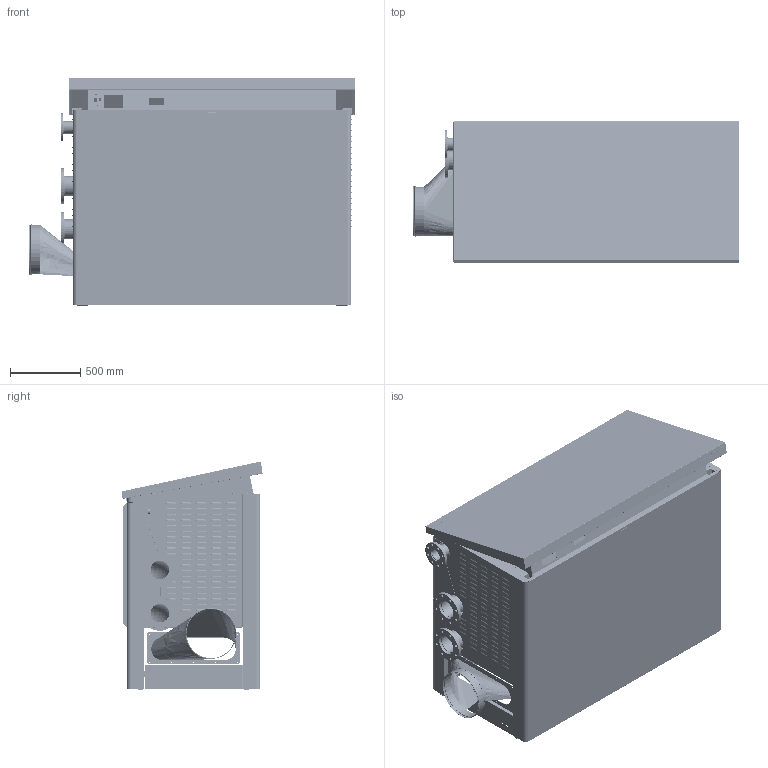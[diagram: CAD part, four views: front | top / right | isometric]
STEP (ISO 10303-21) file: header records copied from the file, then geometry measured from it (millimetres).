
FILE_DESCRIPTION(/* description */ ('Unknown'),/* implementation_level */ '2;1');
FILE_NAME(/* name */ 'MODULEX SINTESI 1000-1100-1200',/* time_stamp */ '2021-01-14T12:06:59+01:00',/* author */ ('Unknown'),/* organization */ ('Unknown'),/* preprocessor_version */ 'ST-DEVELOPER v16.7',/* originating_system */ 'Solid Edge',/* authorisation */ 'Unknown');
FILE_SCHEMA (('AUTOMOTIVE_DESIGN {1 0 10303 214 3 1 1}'));
Products named in the file (190): 50010701-0000A_; 50010701-00000_oa_0; 85010251-00000_oa_1; 00214096; inserto_ESAG_M6_aperto; 00214096-10; 00214096-4_oa_2; 00214096-4_oa_3; 00214096-6; 00214096-9; inserto_M8_H=21_aperto; 00214096-4_oa_4; 00214096-4_oa_5; 00214096-3_oa_6; 00214096-7; 00214096_777_1,678_Saldatura d'angolo 18_oa_7; 00214096_777_1,678_Saldatura d'angolo 18_oa_8; 00214096_777_1,678_Saldatura d'angolo 18_oa_9; 00214096_777_1,678_Saldatura d'angolo 18; 00214096-5_oa_10; 00214096-5_oa_11; 00214096_777_1,678_Saldatura d'angolo 18_oa_12; 00214096_777_1,678_Saldatura d'angolo 18_oa_13; 00214096_777_1,678_Saldatura d'angolo 18_oa_14; 00214096_777_1,678_Saldatura d'angolo 18_oa_15; 00214096_777_1,678_Saldatura d'angolo 18_oa_16; 00214096_777_1,678_Saldatura d'angolo 18_oa_17; 00214096_777_1,678_Saldatura d'angolo 18_oa_18; 00214096_777_1,678_Saldatura d'angolo 18_oa_19; 00214096_777_1,678_Saldatura d'angolo 18_oa_20; 00214096_777_1,678_Saldatura d'angolo 18_oa_21; 86010661-00000_oa_22; 00286685-00000_oa_23; 38811 ; 00286691-00000; 38810; 00286685-00000_1,351_2,149_Saldatura d'angolo 10_oa_24; 00286685-00000_1,351_2,149_Saldatura d'angolo 10_oa_25; 00286685-00000_1,351_2,149_Saldatura d'angolo 10_oa_26; 24488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
Assembly tree (453 placements, depth 6):
  50010701-0000A_
    50010701-00000_oa_0
      85010251-00000_oa_1
        00214096  x2
          inserto_ESAG_M6_aperto
          00214096-10
          00214096-4_oa_2
            00214096-4_oa_3
          00214096-6
          00214096-9
          inserto_M8_H=21_aperto
          00214096-4_oa_4
            00214096-4_oa_5
          00214096-3_oa_6
          00214096-7
          00214096-5_oa_10
            00214096-5_oa_11
      86010661-00000_oa_22
        00286685-00000_oa_23
          38811 
          00286691-00000
          38810
          24488
          VER0010
          00213035  x4
          39912
        00211352  x2
        SEN0140C_oa_32
          SEN0140C-1
          SEN0140C-2  x2
          SEN0140C-3
        SEN0140C_oa_33
          SEN0140C-1
          SEN0140C-2  x2
          SEN0140C-3
        00261357
        00286689-00000
          00286695-00000
            00286705-00000
            00286699-00000_oa_34
            00226389-00000
            38830
            00286701-00000
            00225731-00000  x2
            24102
          VER0010
        00286687-00000_oa_49
          00286693-00000
            00286697-00000
            MNT0103-00001  x2
            00225731-00000  x2
            MNT0030
            38810
            00225733-00000
            38830
            00286701-00000
            00286699-00000
          VER0010
        00261247
        PPS0110C
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Bounding box: 2310 x 1002.31 x 1625.14 mm (x, y, z)
Volume: 33954780.2 mm3; surface area: 38794712.2 mm2
Topology: 572 solids, 572 shells, 11988 faces, 31280 edges, 19591 vertices
Faces by surface type: plane 6812, cylinder 3100, sphere 1290, cone 335, bspline 308, torus 143
Full cylindrical faces by diameter (mm): 1 x1, 1.5 x8, 2.459 x2, 3 x12, 3.2 x22, 3.242 x24, 3.5 x2, 3.7 x40, 3.8 x28, 4 x16, 4.134 x12, 4.2 x31, 4.3 x12, 4.4 x4, 4.5 x8, 4.8 x18, 4.917 x8, 5 x23, 5.1 x8, 5.3 x4, 5.5 x17, 6 x25, 6.2 x12, 6.4 x12, 6.647 x4, 7 x19, 8 x150, 8.2 x13, 8.376 x24, 8.4 x16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
Entity records: 232276 total; most frequent: CARTESIAN_POINT 47979, DIRECTION 37810, ORIENTED_EDGE 34326, EDGE_CURVE 17163, AXIS2_PLACEMENT_3D 14427, VERTEX_POINT 11390, EDGE_LOOP 9251, FACE_BOUND 9251
